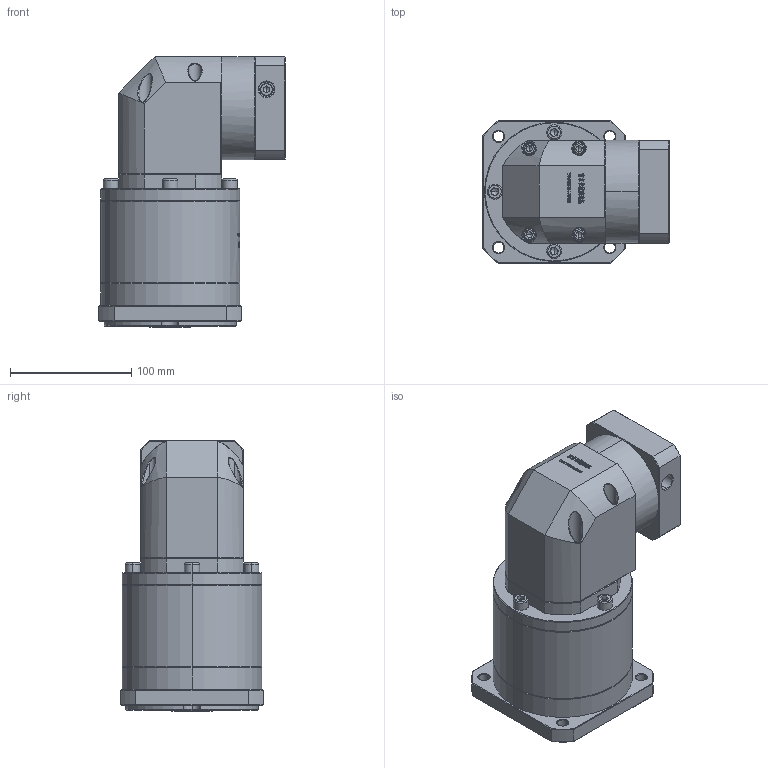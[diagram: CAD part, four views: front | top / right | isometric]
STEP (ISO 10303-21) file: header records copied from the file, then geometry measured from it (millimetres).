
FILE_DESCRIPTION (( 'STEP AP214' ), '1' );
FILE_NAME ('ZFR120A-K25-L3-19-70-90-M5.step', '2023-03-08T05:52:11', ( '' ), ( '' ), 'SwSTEP 2.0', 'SolidWorks 2016', '' );
FILE_SCHEMA (( 'AUTOMOTIVE_DESIGN' ));
Length unit declared in the file: millimetre
Products named in the file (1): ZFR120A-K25-L3-19-70-90-M5
Bounding box: 154.1 x 118 x 223.5 mm (x, y, z)
Volume: 2107567.4 mm3; surface area: 178201.5 mm2
Topology: 6 solids, 6 shells, 2943 faces, 7818 edges, 5021 vertices
Faces by surface type: plane 1571, bspline 616, cylinder 420, cone 322, torus 14
Entity records: 158261 total; most frequent: CARTESIAN_POINT 58537, ORIENTED_EDGE 15548, DIRECTION 11474, EDGE_CURVE 7774, VERTEX_POINT 5021, VECTOR 4876, LINE 4876, AXIS2_PLACEMENT_3D 3299
